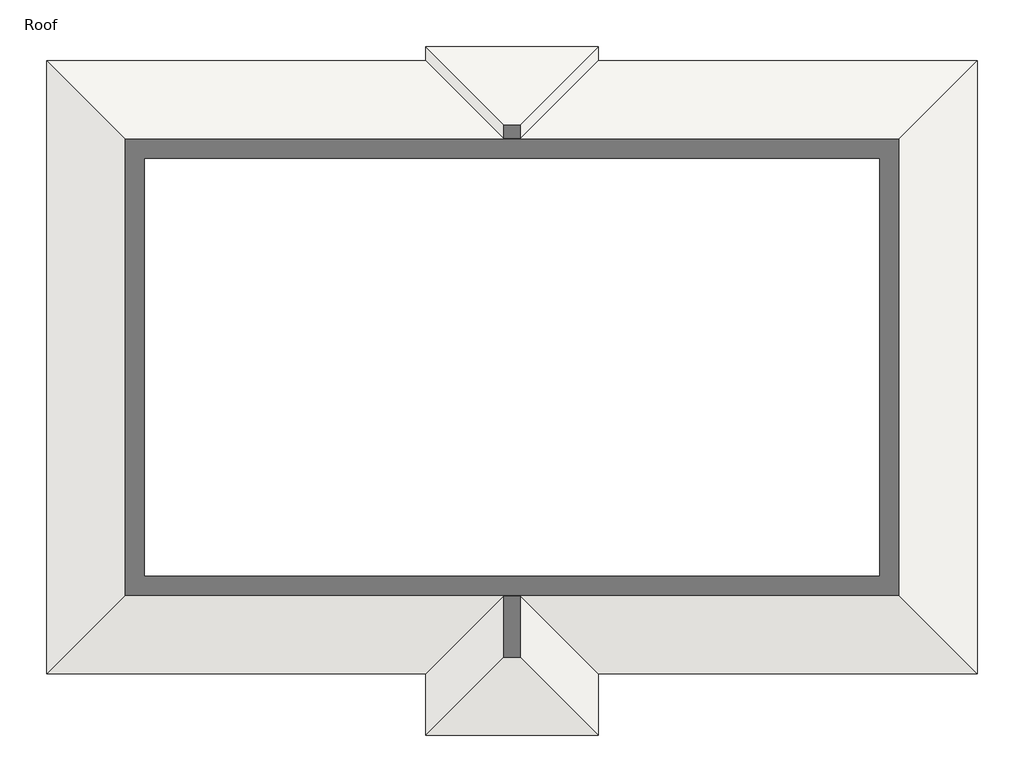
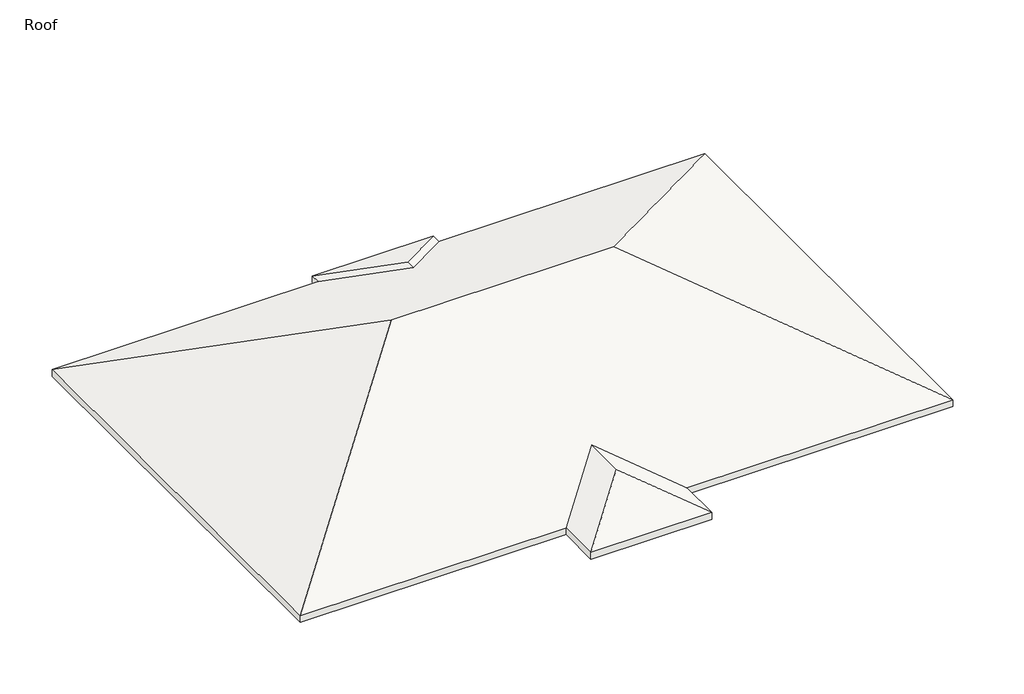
# One storey: 1 roof.
"""IFC4 building model written with IfcOpenShell, lengths in millimetres."""

from ifc_helpers import new_model, si_unit, origin, place, context, project, spatial, faceted_brep, element, save

model = new_model("IFC4")

# Units and contexts
model_context = context("Model", 3, world=origin())
ifc_project = project(units=[si_unit("LENGTHUNIT", "METRE", prefix="MILLI")], contexts=[model_context])

# Site, building, storey
site = spatial("IfcSite", under=ifc_project)
building = spatial("IfcBuilding", under=site)
storey = spatial("IfcBuildingStorey", under=building, Name="Roof", Elevation=9144.0)

# Roof
placement = place(None, origin())
element("IfcRoof", 1, ObjectType="Generic - 12\"", at=placement, inside=storey, context=model_context, shape_type="Brep", body=[
    faceted_brep([(-3540.4500398, 12141.5088201, 8686.8), (-3540.4500398, 12619.2797491, 8686.8), (-632.1500398, 9710.9797491, 10140.95), (-632.1500398, 9233.2088201, 10140.95), (2276.1499602, 12619.2797491, 8686.8), (-3540.4500398, -10617.9234666, 8686.8), (-632.1500398, -7709.6234666, 10140.95), (2276.1499602, -10617.9234666, 8686.8), (2276.1499602, -8549.9661799, 8686.8), (-632.1500398, -5641.6661799, 10140.95), (15074.5749602, -8549.9661799, 8686.8), (4728.8374602, 1795.7713201, 13859.66875), (15074.5749602, 12141.5088201, 8686.8), (-16338.8750398, 12141.5088201, 8686.8), (-5993.1375398, 1795.7713201, 13859.66875), (-16338.8750398, -8549.9661799, 8686.8), (-3540.4500398, -8549.9661799, 8686.8), (2276.1499602, 12141.5088201, 8686.8), (-3540.4500398, 12619.2797491, 9027.5767598), (-3540.4500398, 12141.5088201, 9027.5767598), (-632.1500398, 9233.2088201, 10481.7267598), (-632.1500398, 9710.9797491, 10481.7267598), (2276.1499602, 12619.2797491, 9027.5767598), (-3540.4500398, -10617.9234666, 9027.5767598), (2276.1499602, -10617.9234666, 9027.5767598), (-632.1500398, -7709.6234666, 10481.7267598), (2276.1499602, -8549.9661799, 9027.5767598), (-632.1500398, -5641.6661799, 10481.7267598), (15074.5749602, -8549.9661799, 9027.5767598), (15074.5749602, 12141.5088201, 9027.5767598), (4728.8374602, 1795.7713201, 14200.4455098), (-16338.8750398, 12141.5088201, 9027.5767598), (-16338.8750398, -8549.9661799, 9027.5767598), (-5993.1375398, 1795.7713201, 14200.4455098), (-3540.4500398, -8549.9661799, 9027.5767598), (2276.1499602, 12141.5088201, 9027.5767598)], [[[0, 1, 2, 3]], [[4, 2, 1]], [[5, 6, 7]], [[8, 7, 6, 9]], [[10, 11, 12]], [[13, 14, 15]], [[15, 14, 11, 10, 8, 9, 16]], [[0, 3, 17, 12, 11, 14, 13]], [[18, 19, 20, 21]], [[22, 18, 21]], [[23, 24, 25]], [[24, 26, 27, 25]], [[28, 29, 30]], [[31, 32, 33]], [[32, 34, 27, 26, 28, 30, 33]], [[19, 31, 33, 30, 29, 35, 20]], [[1, 18, 22, 4]], [[0, 19, 18, 1]], [[13, 31, 19, 0]], [[15, 32, 31, 13]], [[16, 34, 32, 15]], [[7, 24, 23, 5]], [[8, 26, 24, 7]], [[10, 28, 26, 8]], [[12, 29, 28, 10]], [[17, 35, 29, 12]], [[2, 4, 17, 3]], [[5, 16, 9, 6]], [[22, 21, 20, 35]], [[34, 23, 25, 27]], [[4, 22, 35, 17]], [[5, 23, 34, 16]]]),
])

save(model, "model.ifc")
